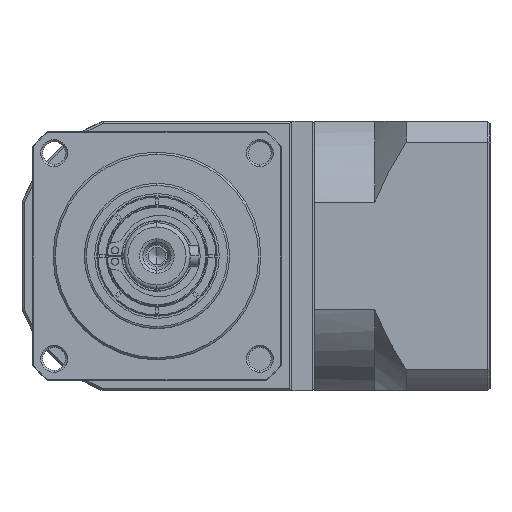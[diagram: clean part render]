
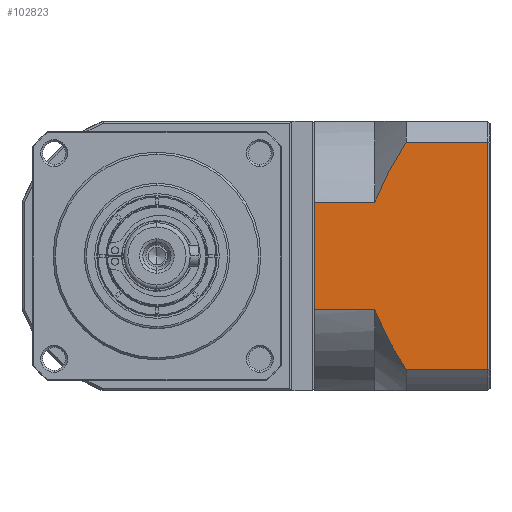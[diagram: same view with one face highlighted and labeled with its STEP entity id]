
A CAD part, left-side view. The second image highlights one B-rep face of the part: STEP entity #102823.
In plain terms, the highlighted planar face has unit normal (-1, 0, 0).
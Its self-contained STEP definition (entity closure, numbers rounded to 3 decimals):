
#7520 = ORIENTED_EDGE ( 'NONE', *, *, #14641, .T. ) ;
#10185 = CARTESIAN_POINT ( 'NONE',  ( -16.223, -79.082, -134.134 ) ) ;
#11099 = VECTOR ( 'NONE', #158728, 1000. ) ;
#11537 = EDGE_CURVE ( 'NONE', #108055, #140860, #108111, .T. ) ;
#12972 = DIRECTION ( 'NONE',  ( 1., 0., 0. ) ) ;
#13669 = EDGE_CURVE ( 'NONE', #24168, #125014, #32720, .T. ) ;
#14641 = EDGE_CURVE ( 'NONE', #111994, #149201, #24322, .T. ) ;
#14865 = CARTESIAN_POINT ( 'NONE',  ( -16.223, -85.291, -145.364 ) ) ;
#20834 = EDGE_CURVE ( 'NONE', #126661, #33858, #88197, .T. ) ;
#22647 = CARTESIAN_POINT ( 'NONE',  ( -16.223, -80.537, -137.2 ) ) ;
#24168 = VERTEX_POINT ( 'NONE', #65844 ) ;
#24322 = LINE ( 'NONE', #96622, #119383 ) ;
#24899 = PLANE ( 'NONE',  #81658 ) ;
#28800 = VECTOR ( 'NONE', #159108, 1000. ) ;
#32720 = LINE ( 'NONE', #85100, #28800 ) ;
#33858 = VERTEX_POINT ( 'NONE', #14865 ) ;
#35137 = CARTESIAN_POINT ( 'NONE',  ( -16.223, -83.83, -143.095 ) ) ;
#35909 = CARTESIAN_POINT ( 'NONE',  ( -16.223, -85.291, -90.591 ) ) ;
#37425 = CARTESIAN_POINT ( 'NONE',  ( -16.223, -84.558, -91.73 ) ) ;
#39283 = VECTOR ( 'NONE', #69859, 1000. ) ;
#48774 = CARTESIAN_POINT ( 'NONE',  ( -16.223, -63.291, -130.968 ) ) ;
#49655 = CARTESIAN_POINT ( 'NONE',  ( -16.223, -77.791, -90.591 ) ) ;
#49932 = CARTESIAN_POINT ( 'NONE',  ( -16.223, -82.458, -95.216 ) ) ;
#53796 = FACE_OUTER_BOUND ( 'NONE', #71874, .T. ) ;
#61432 = ORIENTED_EDGE ( 'NONE', *, *, #11537, .T. ) ;
#62329 = CARTESIAN_POINT ( 'NONE',  ( -16.223, -79.878, -99.997 ) ) ;
#65844 = CARTESIAN_POINT ( 'NONE',  ( -16.223, -104.991, -145.364 ) ) ;
#67095 = CARTESIAN_POINT ( 'NONE',  ( -16.223, -77.791, -145.364 ) ) ;
#69859 = DIRECTION ( 'NONE',  ( 0., 1., 0. ) ) ;
#71874 = EDGE_LOOP ( 'NONE', ( #121616, #94879, #86857, #61432, #140959, #7520, #79571, #79418 ) ) ;
#71964 = CARTESIAN_POINT ( 'NONE',  ( -16.223, -78.03, -131.61 ) ) ;
#73667 = LINE ( 'NONE', #67095, #135596 ) ;
#74827 = CARTESIAN_POINT ( 'NONE',  ( -16.223, -77.791, -104.987 ) ) ;
#79418 = ORIENTED_EDGE ( 'NONE', *, *, #20834, .T. ) ;
#79571 = ORIENTED_EDGE ( 'NONE', *, *, #120508, .F. ) ;
#81023 = LINE ( 'NONE', #97079, #11099 ) ;
#81210 = EDGE_CURVE ( 'NONE', #111994, #140860, #81023, .T. ) ;
#81658 = AXIS2_PLACEMENT_3D ( 'NONE', #87262, #12972, #99631 ) ;
#82313 = LINE ( 'NONE', #49655, #111276 ) ;
#84253 = DIRECTION ( 'NONE',  ( 0., 0., -1. ) ) ;
#84490 = CARTESIAN_POINT ( 'NONE',  ( -16.223, -78.808, -133.51 ) ) ;
#85100 = CARTESIAN_POINT ( 'NONE',  ( -16.223, -104.991, -150.478 ) ) ;
#86857 = ORIENTED_EDGE ( 'NONE', *, *, #99790, .F. ) ;
#87262 = CARTESIAN_POINT ( 'NONE',  ( -16.223, -105.491, -150.478 ) ) ;
#88197 = B_SPLINE_CURVE_WITH_KNOTS ( 'NONE', 3,
 ( #158495, #71964, #133703, #84490, #10185, #96856, #22647, #109334, #35137, #121775 ),
 .UNSPECIFIED., .F., .F.,
 ( 4, 2, 2, 2, 4 ),
 ( 0.101, 0.103, 0.105, 0.109, 0.117 ),
 .UNSPECIFIED. ) ;
#94879 = ORIENTED_EDGE ( 'NONE', *, *, #13669, .T. ) ;
#96622 = CARTESIAN_POINT ( 'NONE',  ( -16.223, -63.291, -150.478 ) ) ;
#96744 = EDGE_CURVE ( 'NONE', #24168, #33858, #73667, .T. ) ;
#96856 = CARTESIAN_POINT ( 'NONE',  ( -16.223, -79.932, -135.988 ) ) ;
#97079 = CARTESIAN_POINT ( 'NONE',  ( -16.223, -77.791, -104.987 ) ) ;
#99631 = DIRECTION ( 'NONE',  ( 0., 1., 0. ) ) ;
#99790 = EDGE_CURVE ( 'NONE', #108055, #125014, #82313, .T. ) ;
#100576 = CARTESIAN_POINT ( 'NONE',  ( -16.223, -77.791, -130.968 ) ) ;
#102823 = ADVANCED_FACE ( 'NONE', ( #53796 ), #24899, .F. ) ;
#108055 = VERTEX_POINT ( 'NONE', #35909 ) ;
#108111 = B_SPLINE_CURVE_WITH_KNOTS ( 'NONE', 3,
 ( #124071, #37425, #111647, #49932, #136458, #62329, #148909, #74827 ),
 .UNSPECIFIED., .F., .F.,
 ( 4, 2, 2, 4 ),
 ( 0.058, 0.062, 0.066, 0.074 ),
 .UNSPECIFIED. ) ;
#109334 = CARTESIAN_POINT ( 'NONE',  ( -16.223, -82.442, -140.781 ) ) ;
#111276 = VECTOR ( 'NONE', #111380, 1000. ) ;
#111380 = DIRECTION ( 'NONE',  ( 0., -1., 0. ) ) ;
#111647 = CARTESIAN_POINT ( 'NONE',  ( -16.223, -83.843, -92.881 ) ) ;
#111994 = VERTEX_POINT ( 'NONE', #149788 ) ;
#116979 = DIRECTION ( 'NONE',  ( 0., 1., 0. ) ) ;
#119383 = VECTOR ( 'NONE', #84253, 1000. ) ;
#120508 = EDGE_CURVE ( 'NONE', #126661, #149201, #151593, .T. ) ;
#121616 = ORIENTED_EDGE ( 'NONE', *, *, #96744, .F. ) ;
#121775 = CARTESIAN_POINT ( 'NONE',  ( -16.223, -85.291, -145.364 ) ) ;
#124071 = CARTESIAN_POINT ( 'NONE',  ( -16.223, -85.291, -90.591 ) ) ;
#125014 = VERTEX_POINT ( 'NONE', #128764 ) ;
#126661 = VERTEX_POINT ( 'NONE', #100576 ) ;
#128764 = CARTESIAN_POINT ( 'NONE',  ( -16.223, -104.991, -90.591 ) ) ;
#133703 = CARTESIAN_POINT ( 'NONE',  ( -16.223, -78.282, -132.249 ) ) ;
#135596 = VECTOR ( 'NONE', #116979, 1000. ) ;
#136458 = CARTESIAN_POINT ( 'NONE',  ( -16.223, -81.788, -96.402 ) ) ;
#140860 = VERTEX_POINT ( 'NONE', #151960 ) ;
#140959 = ORIENTED_EDGE ( 'NONE', *, *, #81210, .F. ) ;
#143955 = CARTESIAN_POINT ( 'NONE',  ( -16.223, -77.791, -130.968 ) ) ;
#148909 = CARTESIAN_POINT ( 'NONE',  ( -16.223, -78.733, -102.449 ) ) ;
#149201 = VERTEX_POINT ( 'NONE', #48774 ) ;
#149788 = CARTESIAN_POINT ( 'NONE',  ( -16.223, -63.291, -104.987 ) ) ;
#151593 = LINE ( 'NONE', #143955, #39283 ) ;
#151960 = CARTESIAN_POINT ( 'NONE',  ( -16.223, -77.791, -104.987 ) ) ;
#158495 = CARTESIAN_POINT ( 'NONE',  ( -16.223, -77.791, -130.968 ) ) ;
#158728 = DIRECTION ( 'NONE',  ( 0., -1., 0. ) ) ;
#159108 = DIRECTION ( 'NONE',  ( 0., 0., 1. ) ) ;
